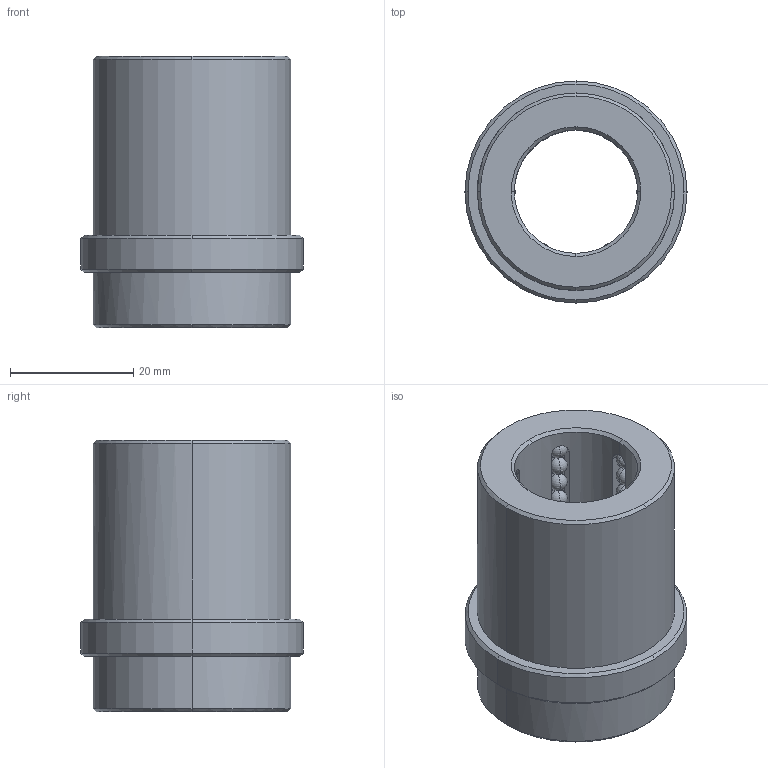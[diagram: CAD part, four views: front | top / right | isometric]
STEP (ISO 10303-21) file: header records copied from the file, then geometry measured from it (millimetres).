
FILE_DESCRIPTION(('CATIA V5 STEP Exchange'),'2;1');
FILE_NAME('C:\Users\Raffaele\Desktop\3D BOLEX\3D FILES CF BOLEX\2-BUSH REF 802\B8022035.stp','2019-06-19T13:57:13+00:00',('none'),('none'),'CATIA Version 5 Release 20 GA (IN-10)','CATIA V5 STEP AP203','none');
FILE_SCHEMA(('CONFIG_CONTROL_DESIGN'));
Length unit declared in the file: millimetre
Products named in the file (1): B8022035
Bounding box: 36 x 36 x 44 mm (x, y, z)
Volume: 21814.4 mm3; surface area: 11976.9 mm2
Topology: 73 solids, 73 shells, 354 faces, 1026 edges, 248 vertices
Faces by surface type: sphere 288, cone 24, plane 22, cylinder 20
Entity records: 7015 total; most frequent: CARTESIAN_POINT 1448, DIRECTION 1124, ORIENTED_EDGE 900, AXIS2_PLACEMENT_3D 689, EDGE_CURVE 450, EDGE_LOOP 362, ADVANCED_FACE 354, FACE_OUTER_BOUND 354
